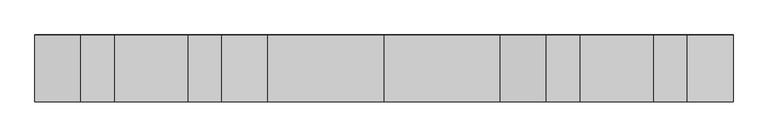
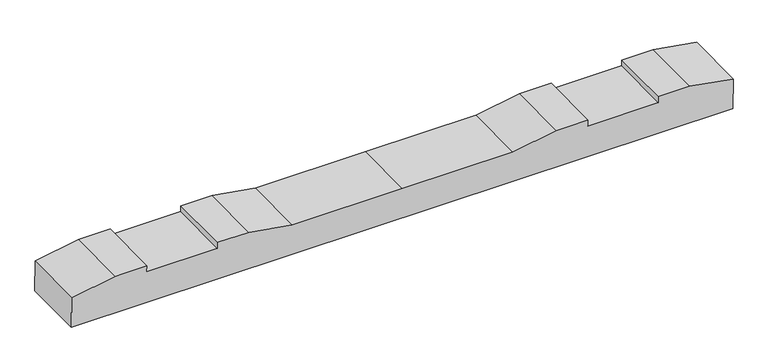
"""IFC4 building model written with IfcOpenShell, lengths in millimetres: proxy geometry, 轨枕-立面角度 : 轨枕-立面角度."""

from ifc_helpers import new_model, si_unit, frame, origin, place, context, project, spatial, polyline, outline, extrude, source, transform, mapped, element, save


def generic_models_e3a1b71d(model_context):
    return source(origin(), model_context, "Body", "SweptSolid", [
        extrude(outline(polyline([(0.0, 0.0), (2099.7669328, 0.0), (2099.7669328, -100.0206889), (1961.8834664, -124.5), (1861.8834664, -124.5), (1861.8834664, -104.4999999), (1637.8834664, -104.4999999), (1637.8834664, -124.5), (1537.8834664, -124.5), (1399.8834664, -100.0), (1049.8834664, -100.0), (699.8834664, -100.0), (561.8834664, -124.5), (461.8834664, -124.5), (461.8834664, -104.4999999), (237.8834664, -104.4999999), (237.8834664, -124.5), (137.8834664, -124.5), (0.0, -100.0206889), (0.0, 0.0)])), frame((-1049.8834664, -98.7093717, -105.71996), z_axis=(0.0, 0.9999246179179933, 0.012278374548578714), x_axis=(1.0, 0.0, 0.0)), (0.0, 0.0, 1.0), 200.0),
    ])


if __name__ == "__main__":
    model = new_model("IFC4")
    model_context = context("Model", 3, world=origin())
    ifc_project = project(units=[si_unit("LENGTHUNIT", "METRE", prefix="MILLI")], contexts=[model_context])
    site = spatial("IfcSite", under=ifc_project)
    building = spatial("IfcBuilding", under=site)
    placement = place(None, origin())
    generic_models_shape = generic_models_e3a1b71d(model_context)
    element("IfcBuildingElementProxy", 1, Name="轨枕-立面角度 : 轨枕-立面角度", ObjectType="轨枕-立面角度 : 轨枕-立面角度", at=placement, inside=building, context=model_context, shape_type="MappedRepresentation", body=[
        mapped(generic_models_shape, transform((0.0, 0.0, 0.0), x_axis=(1.0, 0.0, 0.0), y_axis=(0.0, 1.0, 0.0), z_axis=(0.0, 0.0, 1.0))),
    ])
    save(model, "model.ifc")
